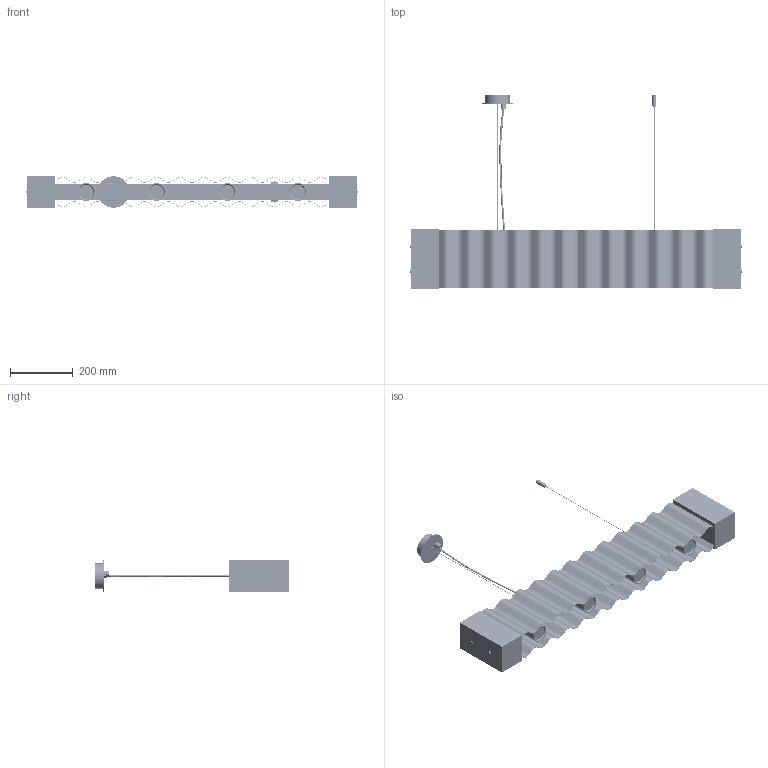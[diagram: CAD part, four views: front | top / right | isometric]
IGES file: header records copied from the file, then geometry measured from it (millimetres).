
Start section: SolidWorks IGES file using analytic representation for surfaces
Global section: file name: C:\Users\Agustin\Desktop\ARNOLD\2024 SEPTIEMBRE\2D\NOSA\2D-3D C1330\NOSA_C1330.IGS; native system: SolidWorks 2018; preprocessor: SolidWorks 2018; author: Agustin; date: 240918.113430; units: millimetre
Bounding box: 1058 x 616.92 x 100 mm (x, y, z)
Surface area: 1890809.6 mm2 (no closed solid volume)
Topology: 0 solids, 0 shells, 2158 faces, 34242 edges, 34242 vertices
Faces by surface type: bspline 1190, revolution 968
